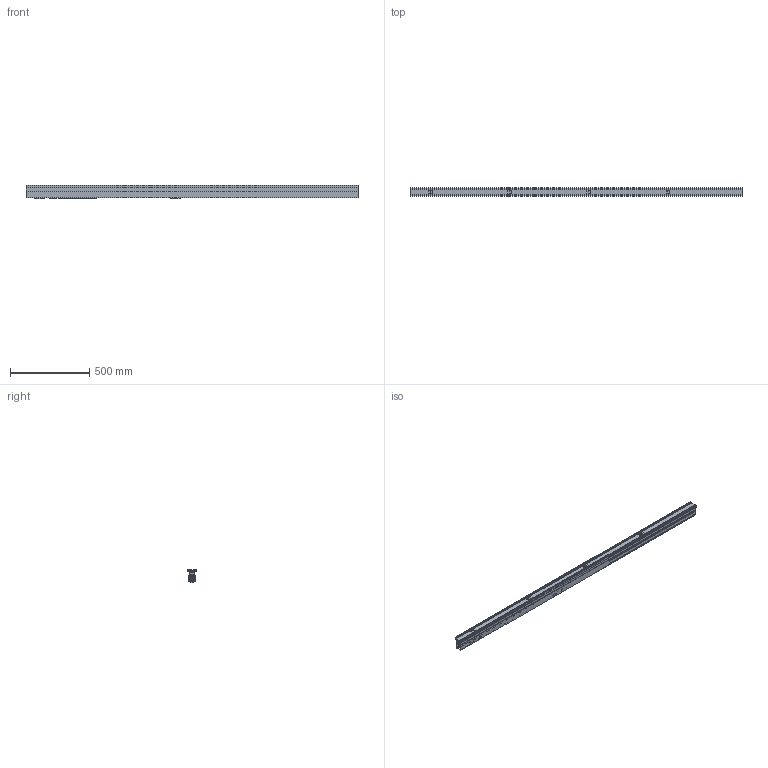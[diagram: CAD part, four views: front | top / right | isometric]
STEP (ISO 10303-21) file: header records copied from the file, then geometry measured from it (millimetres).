
FILE_DESCRIPTION(('STEP AP242'),'1');
FILE_NAME('OPO_65.084.11.stp','2026-02-23T17:29:04',(' '),(' '),'Spatial InterOp 3D',' ',' ');
FILE_SCHEMA(('AP242_MANAGED_MODEL_BASED_3D_ENGINEERING_MIM_LF {1 0 10303 442 1 1 4}'));
Length unit declared in the file: millimetre
Products named in the file (11): Zeichnung1; OPO_65.084.11_Magnetantrieb_Teil1; OPO_65.084.11_Magnetantrieb_Teil2; OPO_65.084.11_Magnetantrieb_Teil3; OPO_65.084.11_Magnetantrieb_Teil4; OPO_65.084.11_Magnetantrieb_Teil5; OPO_65.084.11_Magnetantrieb_Teil6; OPO_65.084.11_Magnetantrieb_Teil7; OPO_65.084.11_Magnetantrieb_Teil8; OPO_65.084.32; AutoCreatedBlock_110
Assembly tree (11 placements, depth 2):
  Zeichnung1
    OPO_65.084.11_Magnetantrieb_Teil1
    OPO_65.084.11_Magnetantrieb_Teil2
    OPO_65.084.11_Magnetantrieb_Teil3
    OPO_65.084.11_Magnetantrieb_Teil4
    OPO_65.084.11_Magnetantrieb_Teil5  x2
    OPO_65.084.11_Magnetantrieb_Teil6
    OPO_65.084.11_Magnetantrieb_Teil7
    OPO_65.084.11_Magnetantrieb_Teil8
    OPO_65.084.32
    AutoCreatedBlock_110
Bounding box: 2100 x 55 x 86.1 mm (x, y, z)
Volume: 2601327.3 mm3; surface area: 1622434.1 mm2
Topology: 58 solids, 58 shells, 1447 faces, 3827 edges, 2536 vertices
Faces by surface type: plane 924, cylinder 521, cone 2
Entity records: 53841 total; most frequent: CARTESIAN_POINT 7882, DIRECTION 7283, ORIENTED_EDGE 7194, EDGE_CURVE 3597, LINE 2593, VECTOR 2593, VERTEX_POINT 2384, AXIS2_PLACEMENT_3D 2345
